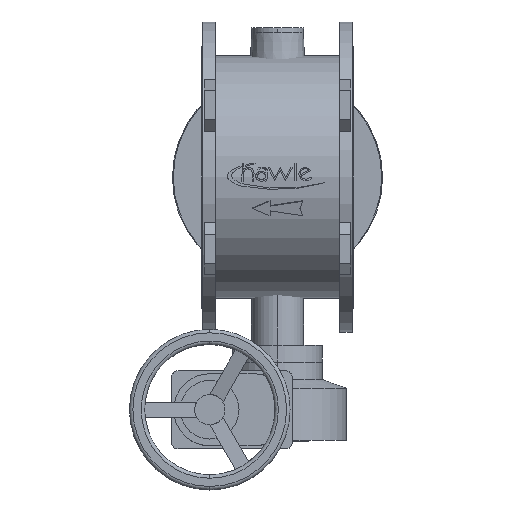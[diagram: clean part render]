
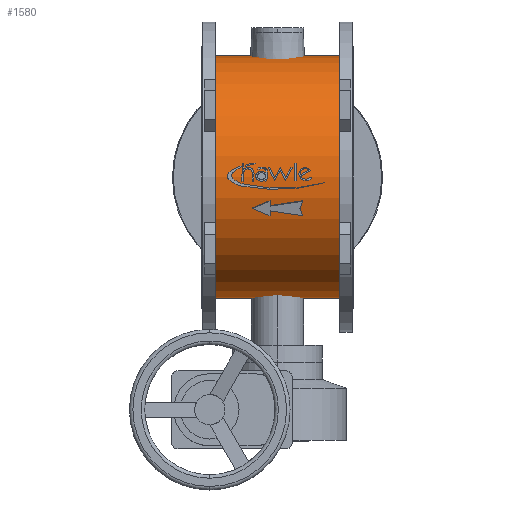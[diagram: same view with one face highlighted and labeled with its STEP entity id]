
A CAD part, top view. The second image highlights one B-rep face of the part: STEP entity #1580.
In plain terms, the highlighted cylindrical face has radius 279.5 mm (diameter 559 mm), a partial arc.
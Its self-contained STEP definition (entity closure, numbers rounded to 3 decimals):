
#1580=ADVANCED_FACE('',(#3092),#3093,.T.);
#3092=FACE_OUTER_BOUND('',#4914,.T.);
#3093=CYLINDRICAL_SURFACE('',#4915,279.5);
#4914=EDGE_LOOP('',(#7872,#7873,#7874,#7875));
#4915=AXIS2_PLACEMENT_3D('',#7876,#7877,#7878);
#7872=ORIENTED_EDGE('',*,*,#10687,.T.);
#7873=ORIENTED_EDGE('',*,*,#10688,.T.);
#7874=ORIENTED_EDGE('',*,*,#10689,.T.);
#7875=ORIENTED_EDGE('',*,*,#9988,.T.);
#7876=CARTESIAN_POINT('',(-318.5,0.,0.0));
#7877=DIRECTION('',(1.0,0.,0.0));
#7878=DIRECTION('',(0.,-1.0,0.0));
#9988=EDGE_CURVE('',#11872,#11871,#11874,.T.);
#10687=EDGE_CURVE('',#11871,#12893,#12894,.T.);
#10688=EDGE_CURVE('',#12893,#12895,#12896,.T.);
#10689=EDGE_CURVE('',#12895,#11872,#12897,.T.);
#11871=VERTEX_POINT('',#14339);
#11872=VERTEX_POINT('',#14340);
#11874=CIRCLE('',#14342,279.5);
#12893=VERTEX_POINT('',#15617);
#12894=LINE('',#15618,#15619);
#12895=VERTEX_POINT('',#15620);
#12896=CIRCLE('',#15621,279.5);
#12897=LINE('',#15622,#15623);
#14339=CARTESIAN_POINT('',(-318.5,-279.5,0.0));
#14340=CARTESIAN_POINT('',(-318.5,279.5,0.));
#14342=AXIS2_PLACEMENT_3D('',#16798,#16799,#16800);
#15617=CARTESIAN_POINT('',(-31.5,-279.5,0.0));
#15618=CARTESIAN_POINT('',(-318.5,-279.5,0.));
#15619=VECTOR('',#17816,1.0);
#15620=CARTESIAN_POINT('',(-31.5,279.5,0.));
#15621=AXIS2_PLACEMENT_3D('',#17817,#17818,#17819);
#15622=CARTESIAN_POINT('',(-318.5,279.5,0.));
#15623=VECTOR('',#17820,1.0);
#16798=CARTESIAN_POINT('',(-318.5,0.,0.0));
#16799=DIRECTION('',(1.0,0.,0.0));
#16800=DIRECTION('',(0.,-1.0,0.0));
#17816=DIRECTION('',(1.0,0.,0.0));
#17817=CARTESIAN_POINT('',(-31.5,0.,0.0));
#17818=DIRECTION('',(-1.0,0.,0.0));
#17819=DIRECTION('',(0.,-1.0,0.0));
#17820=DIRECTION('',(-1.0,0.,-0.0));
